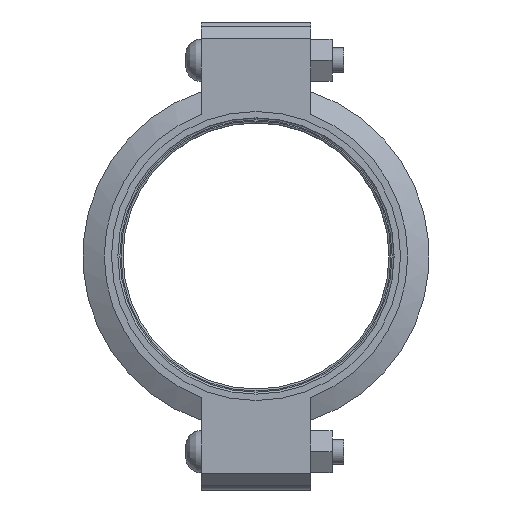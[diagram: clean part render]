
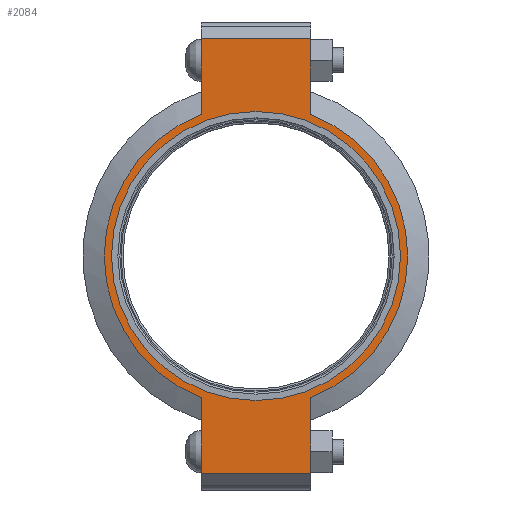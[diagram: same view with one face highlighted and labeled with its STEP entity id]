
A CAD part, left-side view. The second image highlights one B-rep face of the part: STEP entity #2084.
In plain terms, the highlighted planar face has unit normal (-1, 0, 0) as drawn and (0, 0, 1) by its records, which use the part's own axes.
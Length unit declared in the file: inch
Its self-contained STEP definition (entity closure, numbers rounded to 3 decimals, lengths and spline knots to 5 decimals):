
#190=LINE('',#3719,#289);
#198=LINE('',#3755,#297);
#205=LINE('',#3776,#304);
#214=LINE('',#3808,#313);
#215=LINE('',#3812,#314);
#216=LINE('',#3814,#315);
#289=VECTOR('',#3044,0.3937);
#297=VECTOR('',#3060,0.3937);
#304=VECTOR('',#3079,0.3937);
#313=VECTOR('',#3104,0.3937);
#314=VECTOR('',#3109,0.3937);
#315=VECTOR('',#3110,0.3937);
#376=FACE_BOUND('',#650,.T.);
#423=PLANE('',#2454);
#520=FACE_OUTER_BOUND('',#649,.T.);
#649=EDGE_LOOP('',(#1811,#1812,#1813,#1814,#1815,#1816,#1817,#1818));
#650=EDGE_LOOP('',(#1819));
#801=CIRCLE('',#2396,4.3125);
#827=CIRCLE('',#2455,4.53);
#828=CIRCLE('',#2456,4.53);
#956=VERTEX_POINT('',#3535);
#999=VERTEX_POINT('',#3716);
#1000=VERTEX_POINT('',#3718);
#1011=VERTEX_POINT('',#3750);
#1012=VERTEX_POINT('',#3754);
#1019=VERTEX_POINT('',#3773);
#1020=VERTEX_POINT('',#3775);
#1030=VERTEX_POINT('',#3811);
#1031=VERTEX_POINT('',#3813);
#1197=EDGE_CURVE('',#956,#956,#801,.T.);
#1258=EDGE_CURVE('',#1000,#999,#190,.T.);
#1272=EDGE_CURVE('',#1012,#1011,#198,.T.);
#1282=EDGE_CURVE('',#1020,#1019,#205,.T.);
#1297=EDGE_CURVE('',#1012,#999,#214,.T.);
#1298=EDGE_CURVE('',#1011,#1020,#827,.T.);
#1299=EDGE_CURVE('',#1030,#1019,#215,.T.);
#1300=EDGE_CURVE('',#1030,#1031,#216,.T.);
#1301=EDGE_CURVE('',#1031,#1000,#828,.T.);
#1811=ORIENTED_EDGE('',*,*,#1297,.F.);
#1812=ORIENTED_EDGE('',*,*,#1272,.T.);
#1813=ORIENTED_EDGE('',*,*,#1298,.T.);
#1814=ORIENTED_EDGE('',*,*,#1282,.T.);
#1815=ORIENTED_EDGE('',*,*,#1299,.F.);
#1816=ORIENTED_EDGE('',*,*,#1300,.T.);
#1817=ORIENTED_EDGE('',*,*,#1301,.T.);
#1818=ORIENTED_EDGE('',*,*,#1258,.T.);
#1819=ORIENTED_EDGE('',*,*,#1197,.T.);
#2084=ADVANCED_FACE('',(#520,#376),#423,.T.);
#2396=AXIS2_PLACEMENT_3D('',#3537,#2920,#2921);
#2454=AXIS2_PLACEMENT_3D('',#3809,#3105,#3106);
#2455=AXIS2_PLACEMENT_3D('',#3810,#3107,#3108);
#2456=AXIS2_PLACEMENT_3D('',#3815,#3111,#3112);
#2920=DIRECTION('center_axis',(0.,0.,-1.));
#2921=DIRECTION('ref_axis',(1.,0.,0.));
#3044=DIRECTION('',(1.,0.,0.));
#3060=DIRECTION('',(-1.,0.,0.));
#3079=DIRECTION('',(-1.,0.,0.));
#3104=DIRECTION('',(0.,-1.,0.));
#3105=DIRECTION('center_axis',(0.,0.,1.));
#3106=DIRECTION('ref_axis',(-1.,0.,0.));
#3107=DIRECTION('center_axis',(0.,0.,1.));
#3108=DIRECTION('ref_axis',(1.,0.,0.));
#3109=DIRECTION('',(0.,1.,0.));
#3110=DIRECTION('',(1.,0.,0.));
#3111=DIRECTION('center_axis',(0.,0.,1.));
#3112=DIRECTION('ref_axis',(1.,0.,0.));
#3535=CARTESIAN_POINT('',(-4.3125,0.,1.16));
#3537=CARTESIAN_POINT('Origin',(0.,0.,1.16));
#3716=CARTESIAN_POINT('',(6.485,-1.63,1.16));
#3718=CARTESIAN_POINT('',(4.22658,-1.63,1.16));
#3719=CARTESIAN_POINT('',(6.985,-1.63,1.16));
#3750=CARTESIAN_POINT('',(4.22658,1.63,1.16));
#3754=CARTESIAN_POINT('',(6.485,1.63,1.16));
#3755=CARTESIAN_POINT('',(-6.985,1.63,1.16));
#3773=CARTESIAN_POINT('',(-6.485,1.63,1.16));
#3775=CARTESIAN_POINT('',(-4.22658,1.63,1.16));
#3776=CARTESIAN_POINT('',(-6.985,1.63,1.16));
#3808=CARTESIAN_POINT('',(6.485,-0.815,1.16));
#3809=CARTESIAN_POINT('Origin',(0.,0.,
1.16));
#3810=CARTESIAN_POINT('Origin',(0.,0.,1.16));
#3811=CARTESIAN_POINT('',(-6.485,-1.63,1.16));
#3812=CARTESIAN_POINT('',(-6.485,0.815,1.16));
#3813=CARTESIAN_POINT('',(-4.22658,-1.63,1.16));
#3814=CARTESIAN_POINT('',(6.985,-1.63,1.16));
#3815=CARTESIAN_POINT('Origin',(0.,0.,1.16));
